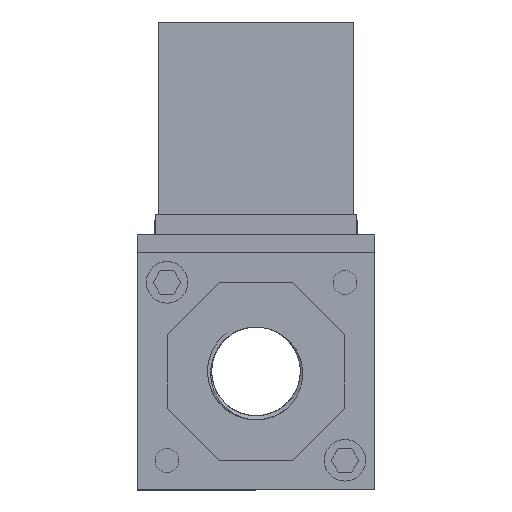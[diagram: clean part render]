
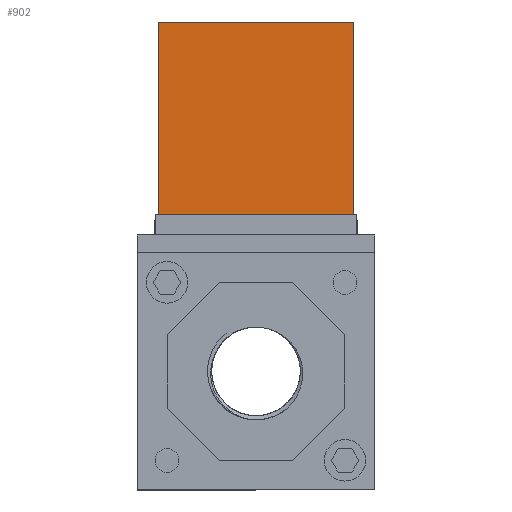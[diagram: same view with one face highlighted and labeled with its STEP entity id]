
A CAD part, left-side view. The second image highlights one B-rep face of the part: STEP entity #902.
In plain terms, the highlighted planar face has unit normal (-1, 0, 0) as drawn and (1, 0, 0) by its records, which use the part's own axes.
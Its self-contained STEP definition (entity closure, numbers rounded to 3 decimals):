
#248 = FACE_OUTER_BOUND ( 'NONE', #8369, .T. ) ;
#844 = LINE ( 'NONE', #7295, #2105 ) ;
#902 = ADVANCED_FACE ( 'NONE', ( #248 ), #17135, .F. ) ;
#1367 = DIRECTION ( 'NONE',  ( 0., 0., 1. ) ) ;
#1761 = EDGE_CURVE ( 'NONE', #6059, #2591, #6074, .T. ) ;
#2105 = VECTOR ( 'NONE', #2349, 1000. ) ;
#2164 = CARTESIAN_POINT ( 'NONE',  ( 57., 32.4, 33. ) ) ;
#2242 = CARTESIAN_POINT ( 'NONE',  ( 57., 32.4, 0. ) ) ;
#2349 = DIRECTION ( 'NONE',  ( 0., 1., 0. ) ) ;
#2591 = VERTEX_POINT ( 'NONE', #2242 ) ;
#2882 = CARTESIAN_POINT ( 'NONE',  ( 57., 0., 33. ) ) ;
#2982 = DIRECTION ( 'NONE',  ( -1., 0., 0. ) ) ;
#4974 = VECTOR ( 'NONE', #5975, 1000. ) ;
#4980 = CARTESIAN_POINT ( 'NONE',  ( 57., 0., 0. ) ) ;
#5975 = DIRECTION ( 'NONE',  ( 0., 0., -1. ) ) ;
#6059 = VERTEX_POINT ( 'NONE', #2164 ) ;
#6074 = LINE ( 'NONE', #12336, #4974 ) ;
#7102 = VECTOR ( 'NONE', #15594, 1000. ) ;
#7293 = CARTESIAN_POINT ( 'NONE',  ( 57., 0., 33. ) ) ;
#7295 = CARTESIAN_POINT ( 'NONE',  ( 57., 0., 33. ) ) ;
#8145 = ORIENTED_EDGE ( 'NONE', *, *, #16372, .T. ) ;
#8369 = EDGE_LOOP ( 'NONE', ( #8145, #13666, #13377, #15984 ) ) ;
#8416 = EDGE_CURVE ( 'NONE', #19520, #13064, #17972, .T. ) ;
#8510 = CARTESIAN_POINT ( 'NONE',  ( 57., 0., 0. ) ) ;
#10758 = LINE ( 'NONE', #4980, #7102 ) ;
#12336 = CARTESIAN_POINT ( 'NONE',  ( 57., 32.4, 33. ) ) ;
#13013 = VECTOR ( 'NONE', #13097, 1000. ) ;
#13051 = EDGE_CURVE ( 'NONE', #19520, #6059, #844, .T. ) ;
#13064 = VERTEX_POINT ( 'NONE', #8510 ) ;
#13097 = DIRECTION ( 'NONE',  ( 0., 0., -1. ) ) ;
#13377 = ORIENTED_EDGE ( 'NONE', *, *, #13051, .F. ) ;
#13666 = ORIENTED_EDGE ( 'NONE', *, *, #1761, .F. ) ;
#14417 = CARTESIAN_POINT ( 'NONE',  ( 57., 0., 33. ) ) ;
#15594 = DIRECTION ( 'NONE',  ( 0., 1., 0. ) ) ;
#15984 = ORIENTED_EDGE ( 'NONE', *, *, #8416, .T. ) ;
#16372 = EDGE_CURVE ( 'NONE', #13064, #2591, #10758, .T. ) ;
#17104 = AXIS2_PLACEMENT_3D ( 'NONE', #2882, #2982, #1367 ) ;
#17135 = PLANE ( 'NONE',  #17104 ) ;
#17972 = LINE ( 'NONE', #14417, #13013 ) ;
#19520 = VERTEX_POINT ( 'NONE', #7293 ) ;
